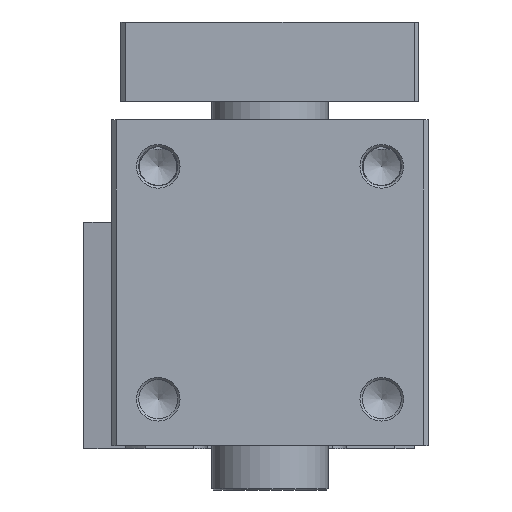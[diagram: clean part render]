
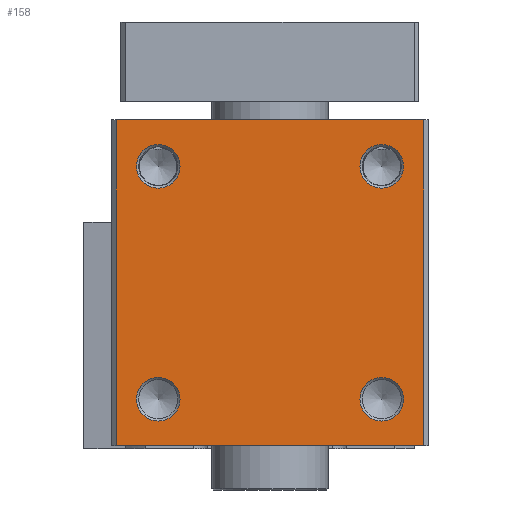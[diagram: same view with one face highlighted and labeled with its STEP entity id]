
A CAD part, left-side view. The second image highlights one B-rep face of the part: STEP entity #158.
In plain terms, the highlighted planar face has unit normal (-1, 0, 0).
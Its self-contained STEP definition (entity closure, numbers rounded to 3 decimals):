
#51=CARTESIAN_POINT('',(-85.057,34.794,0.6));
#52=VERTEX_POINT('',#51);
#59=CARTESIAN_POINT('',(-85.057,34.794,70.6));
#60=VERTEX_POINT('',#59);
#61=CARTESIAN_POINT('',(-85.057,34.794,0.6));
#62=DIRECTION('',(0.0,0.0,1.0));
#63=VECTOR('',#62,70.0);
#64=LINE('',#61,#63);
#65=EDGE_CURVE('',#52,#60,#64,.T.);
#84=CARTESIAN_POINT('',(-85.057,1.794,0.6));
#85=DIRECTION('',(-1.0,0.0,0.0));
#86=DIRECTION('',(0.0,0.0,1.0));
#87=AXIS2_PLACEMENT_3D('',#84,#85,#86);
#88=PLANE('',#87);
#89=ORIENTED_EDGE('',*,*,#65,.F.);
#90=CARTESIAN_POINT('',(-85.057,-31.206,0.6));
#91=VERTEX_POINT('',#90);
#92=CARTESIAN_POINT('',(-85.057,34.794,0.6));
#93=DIRECTION('',(0.0,-1.0,0.0));
#94=VECTOR('',#93,66.0);
#95=LINE('',#92,#94);
#96=EDGE_CURVE('',#52,#91,#95,.T.);
#97=ORIENTED_EDGE('',*,*,#96,.T.);
#98=CARTESIAN_POINT('',(-85.057,-31.206,70.6));
#99=VERTEX_POINT('',#98);
#100=CARTESIAN_POINT('',(-85.057,-31.206,70.6));
#101=DIRECTION('',(0.0,0.0,-1.0));
#102=VECTOR('',#101,70.0);
#103=LINE('',#100,#102);
#104=EDGE_CURVE('',#99,#91,#103,.T.);
#105=ORIENTED_EDGE('',*,*,#104,.F.);
#106=CARTESIAN_POINT('',(-85.057,34.794,70.6));
#107=DIRECTION('',(0.0,-1.0,0.0));
#108=VECTOR('',#107,66.0);
#109=LINE('',#106,#108);
#110=EDGE_CURVE('',#60,#99,#109,.T.);
#111=ORIENTED_EDGE('',*,*,#110,.F.);
#112=EDGE_LOOP('',(#89,#97,#105,#111));
#113=FACE_OUTER_BOUND('',#112,.T.);
#114=CARTESIAN_POINT('',(-85.057,25.794,65.288));
#115=VERTEX_POINT('',#114);
#116=CARTESIAN_POINT('',(-85.057,25.794,60.6));
#117=DIRECTION('',(-1.0,0.0,0.0));
#118=DIRECTION('',(0.0,0.0,-1.0));
#119=AXIS2_PLACEMENT_3D('',#116,#117,#118);
#120=CIRCLE('',#119,4.688);
#121=EDGE_CURVE('',#115,#115,#120,.T.);
#122=ORIENTED_EDGE('',*,*,#121,.F.);
#123=EDGE_LOOP('',(#122));
#124=FACE_BOUND('',#123,.T.);
#125=CARTESIAN_POINT('',(-85.057,25.794,15.288));
#126=VERTEX_POINT('',#125);
#127=CARTESIAN_POINT('',(-85.057,25.794,10.6));
#128=DIRECTION('',(-1.0,0.0,0.0));
#129=DIRECTION('',(0.0,0.0,-1.0));
#130=AXIS2_PLACEMENT_3D('',#127,#128,#129);
#131=CIRCLE('',#130,4.688);
#132=EDGE_CURVE('',#126,#126,#131,.T.);
#133=ORIENTED_EDGE('',*,*,#132,.F.);
#134=EDGE_LOOP('',(#133));
#135=FACE_BOUND('',#134,.T.);
#136=CARTESIAN_POINT('',(-85.057,-22.206,65.288));
#137=VERTEX_POINT('',#136);
#138=CARTESIAN_POINT('',(-85.057,-22.206,60.6));
#139=DIRECTION('',(-1.0,0.0,0.0));
#140=DIRECTION('',(0.0,0.0,-1.0));
#141=AXIS2_PLACEMENT_3D('',#138,#139,#140);
#142=CIRCLE('',#141,4.688);
#143=EDGE_CURVE('',#137,#137,#142,.T.);
#144=ORIENTED_EDGE('',*,*,#143,.F.);
#145=EDGE_LOOP('',(#144));
#146=FACE_BOUND('',#145,.T.);
#147=CARTESIAN_POINT('',(-85.057,-22.206,15.288));
#148=VERTEX_POINT('',#147);
#149=CARTESIAN_POINT('',(-85.057,-22.206,10.6));
#150=DIRECTION('',(-1.0,0.0,0.0));
#151=DIRECTION('',(0.0,0.0,-1.0));
#152=AXIS2_PLACEMENT_3D('',#149,#150,#151);
#153=CIRCLE('',#152,4.688);
#154=EDGE_CURVE('',#148,#148,#153,.T.);
#155=ORIENTED_EDGE('',*,*,#154,.F.);
#156=EDGE_LOOP('',(#155));
#157=FACE_BOUND('',#156,.T.);
#158=ADVANCED_FACE('',(#113,#124,#135,#146,#157),#88,.T.);
